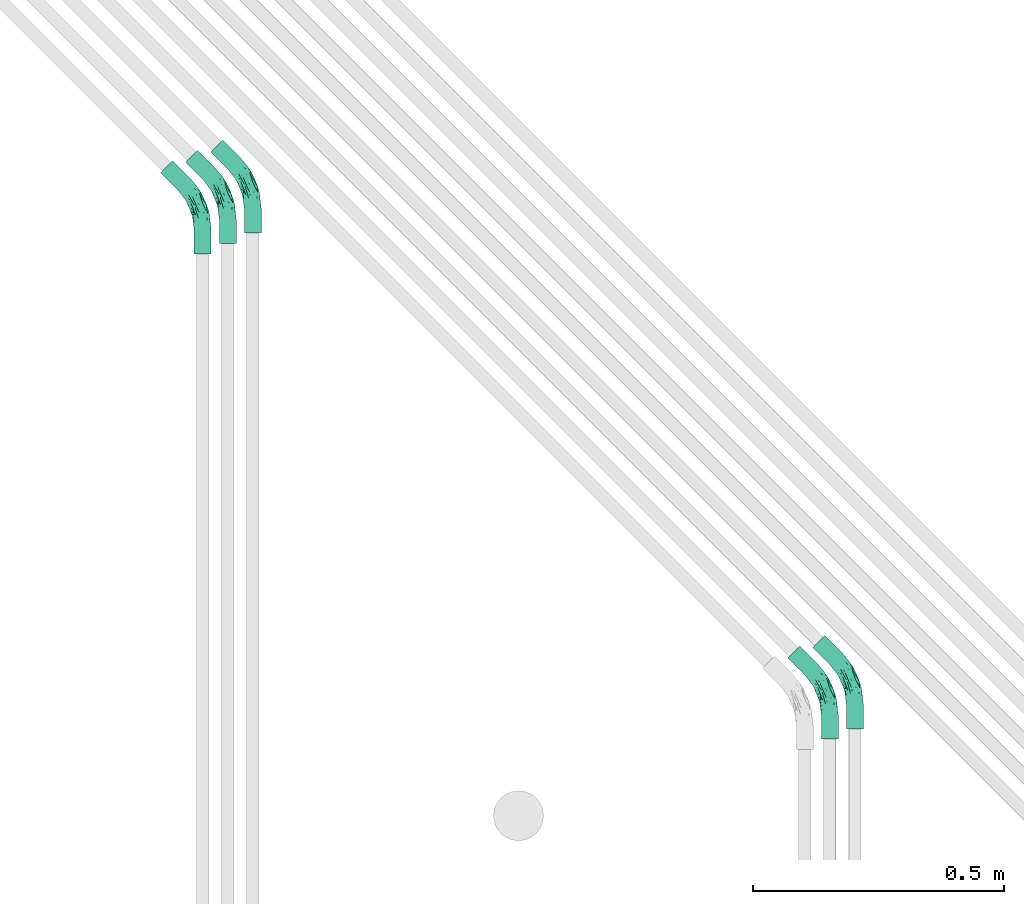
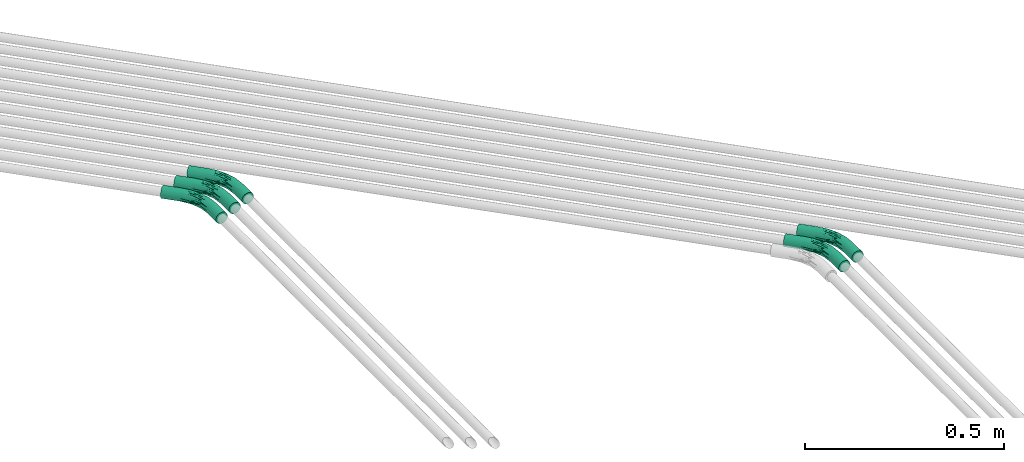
# One storey, part 20 of 51: 5 flow fittings.
"""IFC2X3 building model written with IfcOpenShell, lengths in millimetres."""

from ifc_helpers import new_model, entity, si_unit, converted_unit, derived_unit, direction, frame, origin_with_axes, place, context, subcontext, project, spatial, open_shell, surface_model, source, transform, mapped, type_object, element, save


model = new_model("IFC2X3")

# Units and contexts
model_context = context("Model", 3, precision=0.01, world=frame((0.0, 4.29681676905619e-09, 0.0)), true_north=direction((4.01073788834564e-13, 1.0)))
plan_context = context("Plan", 3, precision=0.01, world=frame((0.0, 4.29681676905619e-09, 0.0)), true_north=direction((4.01073788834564e-13, 1.0)))
body_context = subcontext(model_context, "Body", "Model", "MODEL_VIEW")
ifc_project = project(units=[converted_unit("PLANEANGLEUNIT", "DEGREE", entity("IfcPositiveLengthMeasure", 0.0174532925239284), si_unit("PLANEANGLEUNIT", "RADIAN"), dimensions=[0, 0, 0, 0, 0, 0, 0]), si_unit("AREAUNIT", "SQUARE_METRE"), si_unit("LENGTHUNIT", "METRE", prefix="MILLI"), si_unit("MASSUNIT", "GRAM", prefix="KILO"), si_unit("POWERUNIT", "WATT"), si_unit("PRESSUREUNIT", "PASCAL"), si_unit("FORCEUNIT", "NEWTON", prefix="KILO"), si_unit("ELECTRICVOLTAGEUNIT", "VOLT"), si_unit("ELECTRICCURRENTUNIT", "AMPERE"), si_unit("THERMODYNAMICTEMPERATUREUNIT", "DEGREE_CELSIUS"), si_unit("TIMEUNIT", "SECOND"), si_unit("VOLUMEUNIT", "CUBIC_METRE"), derived_unit("LINEARVELOCITYUNIT", [(si_unit("LENGTHUNIT", "METRE"), 1), (si_unit("TIMEUNIT", "SECOND"), -1)]), derived_unit("VOLUMETRICFLOWRATEUNIT", [(si_unit("VOLUMEUNIT", "CUBIC_METRE"), 1), (si_unit("TIMEUNIT", "SECOND"), -1)]), derived_unit("THERMALTRANSMITTANCEUNIT", [(si_unit("POWERUNIT", "WATT"), 1), (si_unit("THERMODYNAMICTEMPERATUREUNIT", "KELVIN"), -1), (si_unit("AREAUNIT", "SQUARE_METRE"), -1)]), derived_unit("SOUNDPRESSUREUNIT", [(si_unit("PRESSUREUNIT", "PASCAL"), 1)])], contexts=[model_context, plan_context])

# Site, building, storey
site_placement = place(None, frame((0.0, -4.29681676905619e-09, 0.0), z_axis=(0.0, 0.0, 1.0), x_axis=(1.0, 0.0, 0.0)))
site = spatial("IfcSite", under=ifc_project, at=site_placement, Name="ENGM", CompositionType="ELEMENT")
building_placement = place(site_placement, frame((0.0, 4.29681676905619e-09, 0.0), z_axis=(0.0, 0.0, 1.0), x_axis=(1.0, 0.0, 0.0)))
building = spatial("IfcBuilding", under=site, at=building_placement, Name="TI", CompositionType="ELEMENT")
storey_placement = place(building_placement, frame((0.0, 0.0, 210900.0), z_axis=(0.0, 0.0, 1.0), x_axis=(1.0, 0.0, 0.0)))
storey = spatial("IfcBuildingStorey", under=building, at=storey_placement, Name="Nivå F", CompositionType="ELEMENT", Elevation=210900.0)

# Flow fittings
cable_carrier_fitting_type = type_object("IfcCableCarrierFittingType", Name="Trekkerør, glatt bend", PredefinedType="BEND")
shared_shape = source(origin_with_axes(), body_context, "Body", "SurfaceModel", [
    surface_model("IfcShellBasedSurfaceModel", [(-101.90646, 8.46055, -14.6541), (-101.90646, 4.3795, -16.34452), (-101.90646, 0.0, -16.92109), (-101.90646, 14.6541, -8.46055), (-101.90646, -8.46055, -14.6541), (-101.90646, 11.96502, -11.96502), (-101.90646, -16.92109, 0.0), (-101.90646, -16.34452, 4.3795), (-101.90646, -11.96502, -11.96502), (-101.90646, -14.6541, -8.46055), (-101.90646, -4.3795, -16.34452), (-101.90646, -16.34452, -4.3795), (-101.90646, 16.92109, 0.0), (-101.90646, 16.34452, -4.3795), (-101.90646, 16.34452, 4.3795), (-101.90646, 14.6541, 8.46055), (-101.90646, 8.46055, 14.6541), (-101.90646, 11.96502, 11.96502), (-101.90646, 0.0, 16.92109), (-101.90646, 4.3795, 16.34452), (-101.90646, -11.96502, 11.96502), (-101.90646, -8.46055, 14.6541), (-101.90646, -14.6541, 8.46055), (-101.90646, -4.3795, 16.34452), (-54.58849, -16.92109, 0.0), (-54.58849, -16.34452, 4.3795), (-54.58849, -14.6541, 8.46055), (-54.58849, -11.96502, 11.96502), (-54.58849, -8.46055, 14.6541), (-54.58849, -4.3795, 16.34452), (-54.58849, 0.0, 16.92109), (-54.58849, 4.3795, 16.34452), (-54.58849, 8.46055, 14.6541), (-54.58849, 11.96502, 11.96502), (-54.58849, 14.6541, 8.46055), (-54.58849, 16.34452, 4.3795), (-54.58849, 16.92109, 0.0), (-54.58849, 16.34452, -4.3795), (-54.58849, 14.6541, -8.46055), (-54.58849, 11.96502, -11.96502), (-54.58849, 8.46055, -14.6541), (-54.58849, 4.3795, -16.34452), (-54.58849, 0.0, -16.92109), (-54.58849, -4.3795, -16.34452), (-54.58849, -8.46055, -14.6541), (-54.58849, -11.96502, -11.96502), (-54.58849, -14.6541, -8.46055), (-54.58849, -16.34452, -4.3795), (10.9245, -1.31078, 3.47544), (-13.36235, -10.76027, 3.27049), (-16.09967, -11.85394, 0.0), (41.69667, 35.50312, 16.34452), (38.59989, 38.59989, 16.92109), (22.26214, 21.90343, 16.76352), (-19.66365, -2.12805, 15.57779), (-29.58477, -8.16493, 13.36262), (-20.60685, -9.47816, 10.19127), (-34.07223, 17.39409, 6.62821), (-10.25807, 24.76518, 5.65746), (-29.40446, 19.36118, 3.4046), (-3.22837, 7.79397, 16.74683), (-31.22977, -0.25365, 16.76352), (35.50312, 41.69667, 16.34452), (32.61738, 44.5824, 14.6541), (17.47707, 29.1678, 15.66764), (-16.62388, 19.5721, 10.43045), (-25.92736, 13.63005, 13.4985), (5.09993, 25.84703, 13.50914), (-21.17216, 6.44783, 16.79403), (19.76619, 3.00218, 0.0), (-6.56017, 15.83764, 15.71089), (-32.9829, 8.26659, 15.66764), (19.50033, 6.79523, 10.18462), (48.96191, 28.23788, 8.46055), (47.06044, 30.13935, 11.96502), (-0.14544, 0.35113, 13.28643), (-24.85868, 20.8351, 0.0), (44.5824, 32.61738, 14.6541), (26.69306, 15.14611, 13.36262), (8.9424, 34.00903, 7.47137), (8.93562, 35.31889, 4.60583), (25.73601, 8.11548, 6.36012), (-6.07752, -7.50254, 6.29064), (28.23788, 48.96191, 8.46055), (10.0687, 32.56851, 10.38353), (30.13935, 47.06044, 11.96502), (-30.89964, -14.04008, 5.64535), (16.01237, 12.75836, 15.5789), (12.05401, 20.50658, 16.79305), (50.15722, 27.04257, 4.3795), (50.56491, 26.63487, 0.0), (32.88314, 11.79305, 2.69799), (2.8451, 32.31038, 0.0), (26.63487, 50.56491, 0.0), (27.04257, 50.15722, 4.3795), (-32.9829, 8.26659, -15.66764), (16.55602, 18.09298, -16.75967), (38.59989, 38.59989, -16.92109), (41.69667, 35.50312, -16.34452), (30.13935, 47.06044, -11.96502), (32.61738, 44.5824, -14.6541), (8.69552, 27.97131, -13.4985), (-6.56017, 15.83764, -15.71089), (-21.88281, 14.67041, -13.50914), (-31.29267, 18.65579, -4.60583), (-30.37125, 17.72478, -7.47137), (-10.25807, 24.76517, -5.65746), (-1.59965, 3.86188, -15.54749), (17.63726, 9.2923, -13.33594), (-19.1381, -5.92521, -13.33619), (-2.08471, 25.59442, -10.43045), (-30.14906, 15.90977, -10.38353), (-24.73941, 5.56629, -16.79215), (10.41167, 19.53028, -16.79403), (-18.36618, -11.17146, -6.33871), (-28.92763, -11.20296, -10.21852), (-19.67101, 2.27248, -16.75686), (-22.81878, -13.17372, -3.2081), (17.47707, 29.1678, -15.66764), (-30.36783, -4.42984, -15.59506), (24.60567, 18.34093, -15.59506), (35.50312, 41.69667, -16.34452), (7.10167, 34.48251, -3.4046), (27.04257, 50.15722, -4.3795), (44.5824, 32.61738, -14.6541), (47.06044, 30.13935, -11.96502), (28.23788, 48.96191, -8.46055), (11.79322, 36.39219, -6.62821), (1.03493, -2.49855, -10.11808), (48.96191, 28.23788, -8.46055), (28.37661, 12.53324, -10.21852), (20.88626, 5.08744, -6.33871), (25.45054, 6.82009, -3.2081), (2.19574, -5.30098, -3.30061), (50.15722, 27.04257, -4.3795), (60.50143, 83.61607, -4.3795), (72.05875, 72.05875, -16.92109), (68.96197, 75.15552, -16.34452), (66.07624, 78.04126, -14.6541), (63.5982, 80.51929, -11.96502), (61.69674, 82.42076, -8.46055), (75.15552, 68.96197, -16.34452), (80.51929, 63.5982, -11.96502), (78.04126, 66.07624, -14.6541), (83.61607, 60.50143, -4.3795), (82.42076, 61.69674, -8.46055), (83.61607, 60.50143, 4.3795), (84.02377, 60.09373, 0.0), (75.15552, 68.96197, 16.34452), (60.50143, 83.61607, 4.3795), (61.69674, 82.42076, 8.46055), (66.07624, 78.04126, 14.6541), (72.05875, 72.05875, 16.92109), (63.5982, 80.51929, 11.96502), (68.96197, 75.15552, 16.34452), (80.51929, 63.5982, 11.96502), (82.42076, 61.69674, 8.46055), (78.04126, 66.07624, 14.6541), (60.09373, 84.02377, 0.0)], [open_shell([[[0, 1, 2]], [[3, 0, 2]], [[4, 3, 2]], [[5, 0, 3]], [[3, 6, 7]], [[8, 9, 4]], [[2, 10, 4]], [[9, 11, 4]], [[11, 3, 4]], [[3, 11, 6]], [[12, 13, 3]], [[12, 7, 14]], [[14, 7, 15]], [[16, 17, 18]], [[15, 18, 17]], [[18, 19, 16]], [[20, 21, 22]], [[15, 7, 22]], [[23, 18, 21]], [[15, 22, 21]], [[15, 21, 18]], [[3, 7, 12]], [[7, 24, 25]], [[26, 22, 25]], [[21, 27, 28]], [[26, 27, 20]], [[23, 28, 29]], [[24, 7, 6]], [[25, 22, 7]], [[26, 20, 22]], [[27, 21, 20]], [[23, 21, 28]], [[29, 18, 23]], [[29, 30, 18]], [[16, 31, 32]], [[33, 17, 32]], [[14, 34, 35]], [[33, 34, 15]], [[12, 35, 36]], [[31, 19, 30]], [[31, 16, 19]], [[30, 19, 18]], [[32, 17, 16]], [[33, 15, 17]], [[14, 15, 34]], [[35, 12, 14]], [[13, 36, 37]], [[38, 3, 37]], [[0, 39, 40]], [[38, 39, 5]], [[1, 40, 41]], [[36, 13, 12]], [[37, 3, 13]], [[38, 5, 3]], [[39, 0, 5]], [[1, 0, 40]], [[41, 2, 1]], [[41, 42, 2]], [[4, 43, 44]], [[45, 8, 44]], [[11, 46, 47]], [[45, 46, 9]], [[6, 47, 24]], [[43, 10, 42]], [[43, 4, 10]], [[42, 10, 2]], [[44, 8, 4]], [[45, 9, 8]], [[11, 9, 46]], [[47, 6, 11]], [[48, 49, 50]], [[49, 24, 50]], [[51, 52, 53]], [[29, 28, 54]], [[27, 55, 28]], [[56, 27, 26]], [[57, 58, 59]], [[60, 61, 54]], [[61, 30, 29]], [[62, 63, 64]], [[65, 66, 67]], [[31, 30, 68]], [[48, 50, 69]], [[67, 66, 70]], [[33, 32, 66]], [[65, 58, 57]], [[71, 32, 31]], [[72, 73, 74]], [[56, 72, 75]], [[59, 76, 36]], [[74, 77, 78]], [[36, 35, 59]], [[58, 79, 80]], [[81, 72, 82]], [[70, 71, 68]], [[83, 84, 85]], [[25, 49, 86]], [[34, 33, 65]], [[87, 77, 51]], [[54, 87, 60]], [[72, 56, 82]], [[88, 70, 68]], [[72, 81, 73]], [[73, 81, 89]], [[88, 62, 64]], [[78, 72, 74]], [[60, 88, 68]], [[90, 89, 91]], [[48, 81, 82]], [[55, 56, 75]], [[84, 67, 85]], [[59, 92, 76]], [[26, 86, 56]], [[92, 80, 93]], [[75, 78, 87]], [[80, 79, 94]], [[87, 51, 53]], [[70, 64, 67]], [[61, 68, 30]], [[65, 84, 79]], [[60, 53, 88]], [[67, 63, 85]], [[88, 52, 62]], [[65, 33, 66]], [[75, 87, 54]], [[91, 81, 48]], [[66, 32, 71]], [[55, 54, 28]], [[79, 84, 83]], [[67, 84, 65]], [[56, 55, 27]], [[54, 55, 75]], [[87, 78, 77]], [[72, 78, 75]], [[94, 79, 83]], [[65, 79, 58]], [[93, 80, 94]], [[92, 58, 80]], [[54, 61, 29]], [[68, 61, 60]], [[88, 53, 52]], [[87, 53, 60]], [[48, 82, 49]], [[91, 48, 69]], [[90, 91, 69]], [[81, 91, 89]], [[86, 49, 82]], [[24, 49, 25]], [[56, 86, 82]], [[26, 25, 86]], [[68, 71, 31]], [[66, 71, 70]], [[67, 64, 63]], [[88, 64, 70]], [[57, 35, 34]], [[92, 59, 58]], [[35, 57, 59]], [[65, 57, 34]], [[40, 95, 41]], [[96, 97, 98]], [[99, 100, 101]], [[102, 95, 103]], [[76, 104, 36]], [[104, 105, 37]], [[104, 106, 105]], [[107, 108, 109]], [[105, 110, 111]], [[40, 39, 103]], [[110, 99, 101]], [[112, 102, 113]], [[114, 46, 115]], [[116, 113, 96]], [[24, 47, 117]], [[110, 101, 103]], [[114, 47, 46]], [[101, 100, 118]], [[119, 44, 43]], [[112, 41, 95]], [[46, 45, 115]], [[45, 44, 109]], [[107, 119, 116]], [[113, 116, 112]], [[96, 98, 120]], [[113, 121, 97]], [[122, 76, 92]], [[112, 116, 42]], [[93, 123, 122]], [[124, 125, 108]], [[43, 42, 116]], [[110, 126, 99]], [[102, 103, 101]], [[106, 122, 127]], [[100, 121, 118]], [[128, 115, 109]], [[109, 44, 119]], [[127, 110, 106]], [[128, 109, 108]], [[113, 102, 118]], [[120, 98, 124]], [[113, 97, 96]], [[129, 130, 125]], [[107, 120, 108]], [[42, 41, 112]], [[107, 116, 96]], [[128, 130, 131]], [[128, 131, 114]], [[69, 132, 90]], [[69, 133, 132]], [[50, 117, 133]], [[133, 117, 114]], [[133, 69, 50]], [[129, 134, 131]], [[130, 108, 125]], [[122, 92, 93]], [[111, 103, 39]], [[38, 111, 39]], [[105, 111, 38]], [[103, 111, 110]], [[109, 115, 45]], [[114, 115, 128]], [[131, 130, 129]], [[108, 130, 128]], [[37, 105, 38]], [[110, 105, 106]], [[36, 104, 37]], [[76, 106, 104]], [[116, 119, 43]], [[109, 119, 107]], [[108, 120, 124]], [[96, 120, 107]], [[114, 131, 133]], [[132, 133, 131]], [[103, 95, 40]], [[112, 95, 102]], [[113, 118, 121]], [[101, 118, 102]], [[24, 117, 50]], [[47, 114, 117]], [[131, 134, 132]], [[90, 132, 134]], [[127, 123, 126]], [[76, 122, 106]], [[123, 127, 122]], [[110, 127, 126]], [[135, 136, 137]], [[135, 137, 138]], [[139, 140, 135]], [[139, 135, 138]], [[136, 135, 141]], [[141, 142, 143]], [[142, 141, 144]], [[142, 144, 145]], [[141, 135, 144]], [[144, 146, 147]], [[144, 135, 148]], [[135, 149, 150]], [[150, 151, 135]], [[151, 152, 135]], [[151, 150, 153]], [[151, 154, 152]], [[146, 155, 156]], [[155, 146, 157]], [[146, 148, 157]], [[146, 144, 148]], [[152, 148, 135]], [[149, 135, 158]], [[89, 147, 146]], [[156, 73, 146]], [[77, 155, 157]], [[156, 155, 74]], [[51, 157, 148]], [[147, 89, 90]], [[146, 73, 89]], [[156, 74, 73]], [[155, 77, 74]], [[51, 77, 157]], [[148, 52, 51]], [[148, 152, 52]], [[63, 154, 151]], [[153, 85, 151]], [[94, 150, 149]], [[153, 150, 83]], [[93, 149, 158]], [[154, 62, 152]], [[154, 63, 62]], [[152, 62, 52]], [[151, 85, 63]], [[153, 83, 85]], [[94, 83, 150]], [[149, 93, 94]], [[93, 158, 135]], [[140, 123, 135]], [[138, 137, 121]], [[139, 138, 99]], [[126, 140, 139]], [[140, 126, 123]], [[123, 93, 135]], [[99, 138, 100]], [[100, 138, 121]], [[137, 97, 121]], [[99, 126, 139]], [[137, 136, 97]], [[124, 141, 143]], [[142, 125, 143]], [[134, 145, 144]], [[142, 145, 129]], [[90, 144, 147]], [[141, 98, 136]], [[141, 124, 98]], [[136, 98, 97]], [[143, 125, 124]], [[142, 129, 125]], [[134, 129, 145]], [[144, 90, 134]]])]),
])
for number, where, z_axis, x_axis, name in (
    (1, (608824.59, 697045.38056, -56.7999999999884), (0.0, 0.0, 1.0), (0.0, 1.0, 0.0), "Trekkerør, glatt bend"),
    (2, (608774.59, 697024.66989, -56.7999999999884), (0.0, 0.0, 1.0), (0.0, 1.0, 0.0), "Trekkerør, glatt bend"),
    (3, (607624.59, 698033.24853, -56.7999999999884), (0.0, 0.0, 1.0), (0.0, 1.0, 0.0), "Trekkerør, glatt bend"),
    (4, (607574.59, 698012.53785, -56.7999999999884), (0.0, 0.0, 1.0), (0.0, 1.0, 0.0), "Trekkerør, glatt bend"),
    (5, (607524.59, 697991.82717, -56.7999999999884), (0.0, 0.0, 1.0), (0.0, 1.0, 0.0), "Trekkerør, glatt bend"),
):
    element("IfcFlowFitting", number, at=place(storey_placement, frame(where, z_axis=z_axis, x_axis=x_axis)), inside=storey, type_object=cable_carrier_fitting_type, Name=name, context=body_context, shape_type="MappedRepresentation", body=[
        mapped(shared_shape, transform((0.0, 0.0, 0.0), scale=1.0)),
    ])

save(model, "model.ifc")
